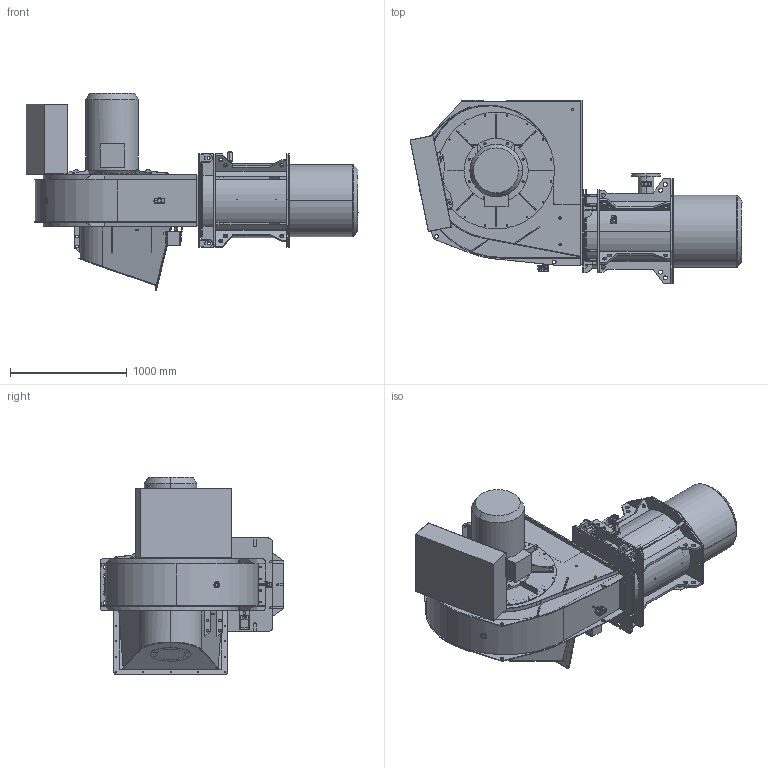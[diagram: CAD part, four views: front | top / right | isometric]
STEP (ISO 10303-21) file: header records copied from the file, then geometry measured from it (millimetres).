
FILE_DESCRIPTION (( 'STEP AP214' ), '1' );
FILE_NAME ('T-6.1450_1650 G.STEP', '2021-05-06T11:46:43', ( 'Pavel' ), ( '' ), 'SwSTEP 2.0', 'SolidWorks 2016', '' );
FILE_SCHEMA (( 'AUTOMOTIVE_DESIGN' ));
Length unit declared in the file: millimetre
Products named in the file (2): T-6.1450_1650 G
Bounding box: 2842.14 x 1571.5 x 1687.08 mm (x, y, z)
Volume: 216731778.2 mm3; surface area: 32082570.8 mm2
Topology: 115 solids, 116 shells, 4102 faces, 10961 edges, 7167 vertices
Faces by surface type: plane 1805, cylinder 1495, bspline 589, cone 205, torus 8
Entity records: 193548 total; most frequent: CARTESIAN_POINT 45649, ORIENTED_EDGE 21862, DIRECTION 19342, EDGE_CURVE 10931, VERTEX_POINT 7165, AXIS2_PLACEMENT_3D 6530, VECTOR 6282, LINE 6282
